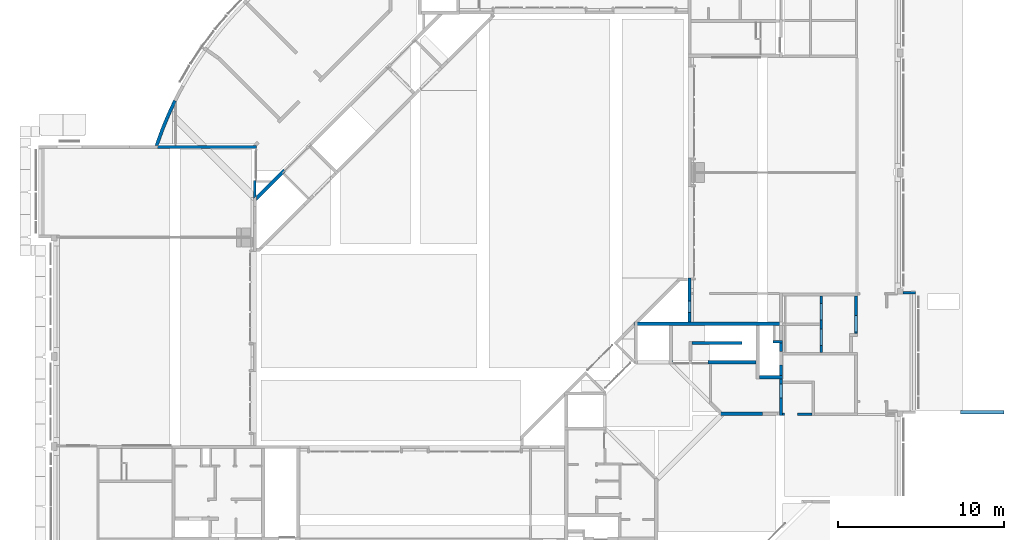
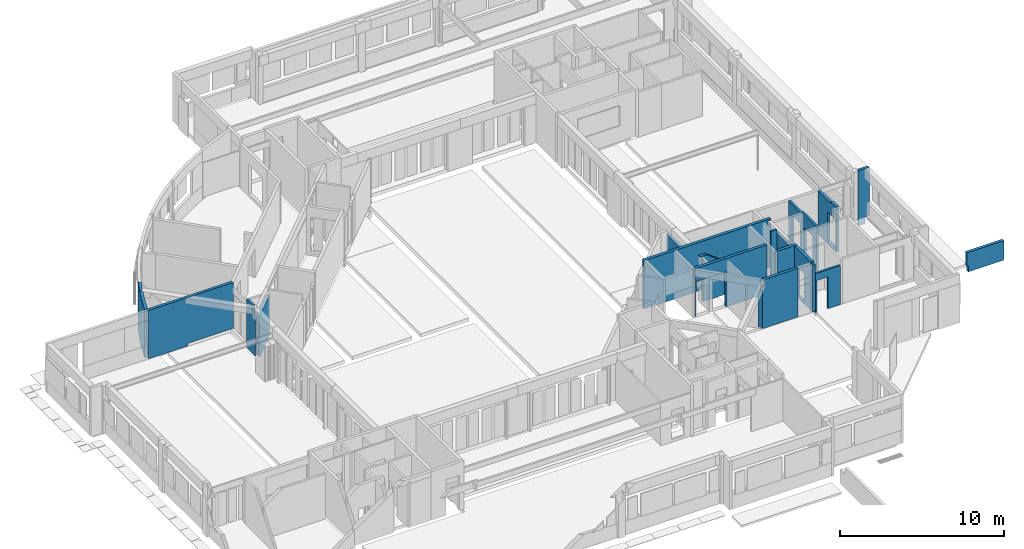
# One storey, part 28 of 30: 18 walls.
"""IFC4X3_ADD2 building model written with IfcOpenShell, lengths in millimetres."""

from ifc_helpers import new_model, si_unit, direction, origin_with_axes, place, context, subcontext, project, spatial, polygons, element, save


model = new_model("IFC4X3_ADD2")

# Units and contexts
model_context = context("Model", 3, precision=1e-05, world=origin_with_axes(), true_north=direction((0.0, 1.0)))
body_context = subcontext(model_context, "Body", "Model", "MODEL_VIEW")
ifc_project = project(units=[si_unit("LENGTHUNIT", "METRE", prefix="MILLI"), si_unit("AREAUNIT", "SQUARE_METRE"), si_unit("VOLUMEUNIT", "CUBIC_METRE"), si_unit("PLANEANGLEUNIT", "RADIAN"), si_unit("TIMEUNIT", "SECOND"), si_unit("MASSUNIT", "GRAM")], contexts=[model_context])

# Site, building, storey
site_placement = place(None, origin_with_axes())
site = spatial("IfcSite", under=ifc_project, at=site_placement, Name="Site", CompositionType="ELEMENT")
building_placement = place(site_placement, origin_with_axes())
building = spatial("IfcBuilding", under=site, at=building_placement, Name="IFC Building Story")
storey_placement = place(building_placement, origin_with_axes())
storey = spatial("IfcBuildingStorey", under=building, at=storey_placement, Name="000", Elevation=0.0)

# Walls
wall_1_placement = place(storey_placement, origin_with_axes())
element("IfcWall", 1, at=wall_1_placement, inside=storey, Name="Basic Wall:BB_XX_Wand uit beton, 200 mm", ObjectType="Basic Wall:BB_XX_Wand uit beton, 200 mm", PredefinedType="SOLIDWALL", context=body_context, shape_type="Tessellation", body=[
    polygons([(-43510.00357176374, 33170.56178589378, 3400.0), (-43474.76069443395, 33244.05478641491, 3400.0), (-43439.24583425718, 33317.41643732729, 3400.0), (-43428.9610024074, 33338.53290252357, 3400.0), (-43418.65398780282, 33359.63755455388, 3400.0), (-43588.63567018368, 33442.76500807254, 3400.0), (-43598.32030802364, 33447.50116123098, 3400.0), (-43803.89270545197, 33015.40151813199, 3400.0), (-44000.10417453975, 32578.97164239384, 3400.0), (-44186.8636073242, 32138.41419744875, 3400.0), (-44364.08422693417, 31693.93389387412, 3400.0), (-44531.68370293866, 31245.7372320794, 3400.0), (-44689.58049290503, 30794.04293435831, 3400.0), (-44701.19811620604, 30759.52906692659, 3400.0), (-44712.75769598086, 30725.00000000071, 3400.0), (-44501.79850273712, 30725.00000000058, 3400.0), (-44351.74753464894, 31155.16974461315, 3400.0), (-44192.82113554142, 31582.13974669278, 3400.0), (-44025.08737338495, 32005.72717265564, 3400.0), (-43848.61821322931, 32425.75030262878, 3400.0), (-43960.38058231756, 32537.51267171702, 3400.0), (-43677.53786984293, 32820.35538419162, 3400.0), (-43674.68451177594, 32817.50202612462, 3400.0), (-43593.12557878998, 32994.39643081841, 3400.0), (-43960.38058231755, 32537.51267171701, 3000.0), (-43848.61821322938, 32425.75030262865, 3000.0), (-43827.23361606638, 32475.04314188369, 3000.0), (-43805.72913969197, 32524.28258532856, 3000.0), (-43764.65288867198, 32617.43689461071, 3000.0), (-43723.1460246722, 32710.40004715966, 3000.0), (-43698.98704501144, 32763.98287520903, 3000.0), (-43674.6845117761, 32817.50202612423, 3000.0), (-43677.53786984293, 32820.35538419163, 3000.0), (-44501.79850273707, 30725.00000000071, -200.0), (-44712.75769598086, 30725.00000000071, -200.0), (-44552.24593249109, 31188.64553363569, -200.0), (-44381.52693567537, 31648.63056731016, -200.0), (-44200.68409444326, 32104.73041805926, -200.0), (-44009.80574276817, 32556.72230066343, -200.0), (-43808.98511654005, 33004.38543646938, -200.0), (-43598.32030802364, 33447.50116123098, -200.0), (-43418.65398780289, 33359.63755455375, -200.0), (-43573.54724347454, 33036.25565246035, -200.0), (-43723.14599375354, 32710.39984253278, -200.0), (-43764.65357484, 32617.43534819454, -200.0), (-43805.72988913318, 32524.2808598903, -200.0), (-43957.52882341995, 32169.42051387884, -200.0), (-44103.07863999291, 31811.95268133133, -200.0), (-44242.33477985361, 31451.98691925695, -200.0), (-44375.25436564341, 31089.63414236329, -200.0), (-44501.79850273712, 30725.00000000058, 840.0), (-43418.65398780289, 33359.63755455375, 880.0), (-43418.65398780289, 33359.63755455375, 0.0), (-43418.65398780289, 33359.63755455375, 840.0), (-43598.32030802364, 33447.50116123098, 2680.0), (-43598.32030802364, 33447.50116123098, 0.0), (-43598.32030802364, 33447.50116123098, 830.0), (-43598.32030802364, 33447.50116123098, 840.0)], [[[6, 7, 4]], [[4, 5, 6]], [[7, 3, 4]], [[7, 2, 3]], [[7, 1, 2]], [[14, 15, 16]], [[16, 13, 14]], [[16, 17, 12]], [[16, 12, 13]], [[17, 18, 11]], [[17, 11, 12]], [[18, 19, 10]], [[18, 10, 11]], [[21, 9, 10]], [[10, 19, 20]], [[10, 20, 21]], [[22, 23, 24]], [[24, 8, 9]], [[24, 9, 21]], [[24, 21, 22]], [[24, 1, 7]], [[24, 7, 8]], [[31, 32, 33]], [[33, 30, 31]], [[30, 33, 25]], [[25, 29, 30]], [[25, 28, 29]], [[25, 27, 28]], [[25, 26, 27]], [[40, 41, 42]], [[40, 42, 43]], [[45, 46, 39]], [[39, 40, 44]], [[39, 44, 45]], [[40, 43, 44]], [[46, 47, 38]], [[46, 38, 39]], [[48, 49, 37]], [[48, 37, 38]], [[38, 47, 48]], [[49, 50, 36]], [[49, 36, 37]], [[50, 34, 35]], [[50, 35, 36]], [[17, 16, 51]], [[19, 18, 48]], [[18, 17, 51]], [[19, 26, 20]], [[46, 28, 27]], [[46, 27, 26]], [[48, 26, 19]], [[50, 51, 34]], [[51, 50, 49]], [[51, 49, 18]], [[49, 48, 18]], [[48, 47, 26]], [[26, 47, 46]], [[46, 45, 28]], [[45, 29, 28]], [[24, 32, 1]], [[32, 24, 23]], [[2, 1, 52]], [[4, 3, 52]], [[3, 2, 52]], [[5, 4, 52]], [[44, 31, 30]], [[32, 31, 52]], [[44, 52, 31]], [[29, 44, 30]], [[54, 52, 43]], [[43, 53, 54]], [[43, 42, 53]], [[44, 43, 52]], [[52, 1, 32]], [[45, 44, 29]], [[6, 5, 55]], [[55, 7, 6]], [[53, 42, 41]], [[53, 41, 56]], [[57, 58, 54]], [[54, 53, 56]], [[54, 56, 57]], [[58, 52, 54]], [[58, 55, 5]], [[58, 5, 52]], [[56, 41, 40]], [[40, 57, 56]], [[40, 58, 57]], [[9, 40, 39]], [[7, 55, 58, 8]], [[58, 9, 8]], [[9, 58, 40]], [[39, 10, 9]], [[11, 38, 37]], [[13, 36, 35]], [[37, 36, 12]], [[35, 15, 14]], [[11, 10, 38]], [[13, 12, 36]], [[14, 13, 35]], [[11, 37, 12]], [[38, 10, 39]], [[51, 16, 15]], [[51, 15, 35]], [[35, 34, 51]], [[22, 21, 25, 33]], [[21, 20, 26, 25]], [[33, 32, 23, 22]]]),
])
wall_2_placement = place(storey_placement, origin_with_axes())
element("IfcWall", 2, at=wall_2_placement, inside=storey, Name="Basic Wall:BB_XX_Wand uit beton, 170 mm", ObjectType="Basic Wall:BB_XX_Wand uit beton, 170 mm", PredefinedType="SOLIDWALL", context=body_context, shape_type="Tessellation", body=[
    polygons([(995.000000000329, 21785.0, 3400.0), (245.0, 21785.0, 3400.0), (245.0, 21785.0, -700.0), (705.0000000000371, 21785.0, -700.0), (705.0000000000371, 21785.0, -199.999999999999), (805.00000000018, 21785.0, -199.999999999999), (995.000000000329, 21785.0, -199.999999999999), (995.000000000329, 21785.0, 840.0), (245.0, 21955.0, 3400.0), (995.000000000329, 21955.0, 3400.0), (995.000000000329, 21955.0, -199.999999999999), (705.0000000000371, 21955.0, -199.999999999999), (705.0000000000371, 21955.0, -700.0), (245.0, 21955.0, -700.0), (705.0000000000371, 21804.99999999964, -700.0)], [[[6, 7, 8]], [[8, 5, 6]], [[8, 1, 2]], [[8, 2, 3]], [[8, 3, 5]], [[3, 4, 5]], [[12, 13, 14]], [[12, 14, 9]], [[12, 9, 10]], [[10, 11, 12]], [[15, 4, 3]], [[3, 14, 13]], [[3, 13, 15]], [[8, 7, 11]], [[11, 10, 1]], [[11, 1, 8]], [[2, 1, 10, 9]], [[3, 2, 9, 14]], [[15, 13, 12]], [[15, 12, 5]], [[5, 4, 15]], [[6, 5, 12]], [[12, 11, 7]], [[12, 7, 6]]]),
])
wall_3_placement = place(storey_placement, origin_with_axes())
element("IfcWall", 3, at=wall_3_placement, inside=storey, Name="Basic Wall:BB_XX_Wand uit beton, 190 mm", ObjectType="Basic Wall:BB_XX_Wand uit beton, 190 mm", PredefinedType="SOLIDWALL", context=body_context, shape_type="Tessellation", body=[
    polygons([(-12695.0040658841, 22755.0, -200.0), (-12695.0040658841, 20099.99999999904, -200.0), (-12695.0040658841, 20099.99999999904, 2680.0), (-12695.0040658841, 22755.0, 2680.0), (-12695.0040658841, 21375.63375030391, 1700.0), (-12695.0040658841, 20675.6337503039, 1700.0), (-12695.0040658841, 20675.6337503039, 0.0), (-12695.0040658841, 21375.63375030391, 0.0), (-12505.0040658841, 22755.0, -200.0), (-12505.0040658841, 22755.0, 2680.0), (-12505.0040658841, 20099.99999999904, 2680.0), (-12505.0040658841, 20099.99999999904, -200.0), (-12505.0040658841, 21375.63375030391, 1700.0), (-12505.0040658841, 21375.63375030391, 0.0), (-12505.0040658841, 20675.6337503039, 0.0), (-12505.0040658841, 20675.6337503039, 1700.0)], [[[5, 3, 4]], [[4, 1, 8]], [[4, 8, 5]], [[1, 2, 8]], [[2, 7, 8]], [[2, 3, 6]], [[2, 6, 7]], [[3, 5, 6]], [[16, 13, 11]], [[11, 12, 15]], [[11, 15, 16]], [[12, 14, 15]], [[14, 12, 9]], [[9, 10, 13]], [[9, 13, 14]], [[10, 11, 13]], [[2, 1, 9, 12]], [[3, 2, 12, 11]], [[4, 3, 11, 10]], [[1, 4, 10, 9]], [[6, 5, 13, 16]], [[7, 6, 16, 15]], [[8, 7, 15, 14]], [[5, 8, 14, 13]]]),
])
wall_4_placement = place(storey_placement, origin_with_axes())
element("IfcWall", 4, at=wall_4_placement, inside=storey, Name="Basic Wall:BB_XX_Wand uit beton, 200 mm", ObjectType="Basic Wall:BB_XX_Wand uit beton, 200 mm", PredefinedType="SOLIDWALL", context=body_context, shape_type="Tessellation", body=[
    polygons([(-15915.2549392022, 19900.0, -79.99999999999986), (-15914.9999999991, 19900.0, -79.99999999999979), (-15904.6483374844, 19900.0, -79.99999999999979), (-15714.9999999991, 19900.0, -79.99999999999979), (-13814.9999999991, 19900.0, -79.99999999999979), (-13614.9999999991, 19900.0, -79.99999999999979), (-8599.9999999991, 19900.0, -79.99999999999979), (-8399.9999999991, 19900.0, -79.99999999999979), (-6999.999999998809, 19900.0, -79.99999999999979), (-6999.999999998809, 19900.0, 3140.0), (-7189.999999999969, 19900.0, 3140.0), (-7189.999999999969, 19900.0, 3400.0), (-6999.999999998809, 19900.0, 3400.0), (-6999.999999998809, 19900.0, 3520.0), (-8399.9999999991, 19900.0, 3520.0), (-8599.9999999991, 19900.0, 3520.0), (-13614.9999999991, 19900.0, 3520.0), (-13814.9999999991, 19900.0, 3520.0), (-15714.9999999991, 19900.0, 3520.0), (-15914.9999999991, 19900.0, 3520.0), (-15915.2549392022, 19900.0, 3520.0), (-6999.999999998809, 20100.0, -79.99999999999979), (-15714.9999999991, 20100.0, -79.99999999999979), (-15904.6483374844, 20100.0, -79.99999999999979), (-15914.9999999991, 20100.0, -79.99999999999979), (-15915.2549392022, 20100.0, -79.99999999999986), (-15915.2549392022, 20100.0, 3520.0), (-15914.9999999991, 20100.0, 3520.0), (-15714.9999999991, 20100.0, 3520.0), (-6999.999999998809, 20100.0, 3520.0), (-6999.999999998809, 20100.0, 3400.0), (-7189.999999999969, 20100.0, 3400.0), (-7189.999999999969, 20100.0, 3140.0), (-6999.999999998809, 20100.0, 3140.0)], [[[12, 13, 14]], [[12, 14, 15]], [[15, 11, 12]], [[11, 15, 8]], [[11, 8, 9]], [[9, 10, 11]], [[15, 16, 7]], [[15, 7, 8]], [[16, 17, 6]], [[16, 6, 7]], [[17, 18, 5]], [[17, 5, 6]], [[18, 19, 4]], [[18, 4, 5]], [[19, 20, 3]], [[19, 3, 4]], [[20, 2, 3]], [[20, 21, 1]], [[20, 1, 2]], [[25, 26, 27]], [[25, 27, 28]], [[28, 24, 25]], [[28, 29, 23]], [[28, 23, 24]], [[33, 34, 22]], [[33, 22, 23]], [[33, 23, 29]], [[29, 32, 33]], [[29, 30, 32]], [[30, 31, 32]], [[2, 1, 26]], [[2, 26, 25]], [[25, 24, 3]], [[25, 3, 2]], [[24, 23, 4]], [[24, 4, 3]], [[23, 5, 4]], [[23, 6, 5]], [[6, 23, 22]], [[22, 7, 6]], [[22, 8, 7]], [[22, 9, 8]], [[9, 22, 34, 10]], [[15, 14, 30]], [[30, 16, 15]], [[30, 17, 16]], [[30, 29, 17]], [[29, 18, 17]], [[29, 19, 18]], [[29, 28, 20]], [[29, 20, 19]], [[28, 27, 21]], [[28, 21, 20]], [[1, 21, 27, 26]], [[33, 11, 10, 34]], [[11, 33, 32, 12]], [[12, 32, 31, 13]], [[30, 14, 13, 31]]]),
])
wall_5_placement = place(storey_placement, origin_with_axes())
element("IfcWall", 5, at=wall_5_placement, inside=storey, Name="Basic Wall:BB_XX_Wand uit beton, 200 mm", ObjectType="Basic Wall:BB_XX_Wand uit beton, 200 mm", PredefinedType="SOLIDWALL", context=body_context, shape_type="Tessellation", body=[
    polygons([(-8400.0, 16700.0, -79.99999999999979), (-7000.000000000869, 16700.0, -79.99999999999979), (-7000.000000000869, 16700.0, 3140.0), (-7190.000000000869, 16700.0, 3140.0), (-7190.000000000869, 16700.0, 3400.0), (-7000.000000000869, 16700.0, 3400.0), (-7000.000000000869, 16700.0, 3520.0), (-8400.0, 16700.0, 3520.0), (-7000.000000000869, 16900.0, -79.99999999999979), (-8400.0, 16900.0, -79.99999999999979), (-8400.0, 16900.0, 3520.0), (-7000.000000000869, 16900.0, 3520.0), (-7000.000000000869, 16900.0, 3400.0), (-7190.000000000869, 16900.0, 3400.0), (-7190.000000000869, 16900.0, 3140.0), (-7000.000000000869, 16900.0, 3140.0)], [[[5, 6, 7]], [[5, 7, 8]], [[8, 4, 5]], [[4, 8, 1]], [[4, 1, 2]], [[2, 3, 4]], [[15, 16, 9]], [[9, 10, 11]], [[9, 11, 15]], [[11, 14, 15]], [[11, 12, 14]], [[12, 13, 14]], [[2, 1, 10, 9]], [[2, 9, 16, 3]], [[8, 7, 12, 11]], [[1, 8, 11, 10]], [[15, 4, 3, 16]], [[4, 15, 14, 5]], [[5, 14, 13, 6]], [[12, 7, 6, 13]]]),
])
wall_6_placement = place(storey_placement, origin_with_axes())
element("IfcWall", 6, at=wall_6_placement, inside=storey, Name="Basic Wall:BB_XX_Wand uit beton, 200 mm", ObjectType="Basic Wall:BB_XX_Wand uit beton, 200 mm", PredefinedType="SOLIDWALL", context=body_context, shape_type="Tessellation", body=[
    polygons([(-7200.03046328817, 16700.0, -80.0), (-7200.03046328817, 14700.00000000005, -79.99999999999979), (-7200.030463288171, 14500.00000000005, -79.99999999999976), (-7200.030463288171, 14500.00000000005, 3400.0), (-7200.030463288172, 14700.00000000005, 3400.0), (-7200.030463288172, 14700.00000000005, 3520.0), (-7200.03046328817, 16700.0, 3520.0), (-7200.030463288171, 16390.00000000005, 2160.0), (-7200.03046328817, 15560.00000000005, 2160.0), (-7200.03046328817, 15560.00000000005, 0.0), (-7200.030463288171, 16390.00000000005, -1.70530256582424e-12), (-7000.030463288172, 16700.0, -80.0), (-7000.030463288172, 16700.0, 3520.0), (-7000.03046328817, 14700.00000000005, 3520.0), (-7000.03046328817, 14700.00000000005, 3400.0), (-7000.03046328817, 14500.00000000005, 3400.0), (-7000.03046328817, 14500.00000000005, -79.99999999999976), (-7000.030463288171, 16390.00000000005, 2160.0), (-7000.030463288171, 16390.00000000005, -1.70530256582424e-12), (-7000.030463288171, 15560.00000000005, 0.0), (-7000.030463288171, 15560.00000000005, 2160.0)], [[[2, 3, 4]], [[2, 4, 5]], [[5, 6, 7]], [[11, 8, 7]], [[11, 7, 1]], [[1, 10, 11]], [[1, 2, 10]], [[2, 5, 9]], [[2, 9, 10]], [[5, 7, 8]], [[5, 8, 9]], [[15, 16, 17]], [[21, 18, 13]], [[21, 13, 15]], [[15, 17, 20]], [[15, 20, 21]], [[20, 17, 12]], [[12, 19, 20]], [[12, 13, 18]], [[12, 18, 19]], [[13, 14, 15]], [[4, 3, 17, 16]], [[6, 5, 15, 14]], [[2, 1, 12]], [[2, 12, 17]], [[17, 3, 2]], [[7, 6, 14, 13]], [[1, 7, 13, 12]], [[15, 5, 4, 16]], [[9, 8, 18, 21]], [[10, 9, 21, 20]], [[11, 10, 20, 19]], [[8, 11, 19, 18]]]),
])
wall_7_placement = place(storey_placement, origin_with_axes())
element("IfcWall", 7, at=wall_7_placement, inside=storey, Name="Basic Wall:BB_XX_Wand uit beton, 200 mm", ObjectType="Basic Wall:BB_XX_Wand uit beton, 200 mm", PredefinedType="SOLIDWALL", context=body_context, shape_type="Tessellation", body=[
    polygons([(-8600.000000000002, 17800.0, -80.0), (-11477.49999999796, 17800.0, -79.99999999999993), (-11477.49999999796, 17800.0, 2550.0), (-12437.49999999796, 17800.0, 2550.0), (-12627.49999999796, 17800.0, 2550.0), (-13587.49999999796, 17800.0, 2550.0), (-13587.49999999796, 17800.0, -80.0), (-13614.99999999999, 17800.0, -79.99999999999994), (-13614.99999999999, 17800.0, 3520.0), (-8600.000000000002, 17800.0, 3520.0), (-11477.49999999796, 17600.0, -79.99999999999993), (-8600.000000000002, 17600.0, -80.0), (-8600.000000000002, 17600.0, 3520.0), (-13614.99999999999, 17600.0, 3520.0), (-13614.99999999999, 17600.0, -79.99999999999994), (-13587.49999999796, 17600.0, -80.0), (-13587.49999999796, 17600.0, 2550.0), (-12627.49999999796, 17600.0, 2550.0), (-12437.49999999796, 17600.0, 2550.0), (-11477.49999999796, 17600.0, 2550.0)], [[[6, 7, 8]], [[8, 9, 6]], [[9, 5, 6]], [[9, 4, 5]], [[9, 3, 4]], [[3, 9, 10]], [[10, 1, 2]], [[10, 2, 3]], [[20, 11, 12]], [[20, 12, 13]], [[13, 14, 20]], [[14, 19, 20]], [[14, 18, 19]], [[14, 17, 18]], [[17, 14, 15]], [[15, 16, 17]], [[1, 10, 13, 12]], [[9, 8, 15, 14]], [[2, 1, 12, 11]], [[10, 9, 14, 13]], [[3, 2, 11, 20]], [[18, 17, 6]], [[18, 6, 5]], [[5, 4, 19]], [[5, 19, 18]], [[4, 3, 20]], [[4, 20, 19]], [[7, 6, 17, 16]], [[8, 7, 16, 15]]]),
])
wall_8_placement = place(storey_placement, origin_with_axes())
element("IfcWall", 8, at=wall_8_placement, inside=storey, Name="Basic Wall:BB_XX_Wand uit beton, 200 mm", ObjectType="Basic Wall:BB_XX_Wand uit beton, 200 mm", PredefinedType="SOLIDWALL", context=body_context, shape_type="Tessellation", body=[
    polygons([(-8210.0, 14700.0, -79.99999999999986), (-10718.01515190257, 14700.0, -79.99999999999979), (-10718.01515190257, 14700.0, 0.0), (-10916.00505063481, 14700.0, 0.0), (-10916.00505063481, 14700.0, 2680.0), (-10718.01515190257, 14700.0, 2680.0), (-10718.01515190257, 14700.0, 3520.0), (-8210.0, 14700.0, 3520.0), (-10716.00505063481, 14500.0, -79.99999999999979), (-8210.000000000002, 14500.0, -79.99999999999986), (-8210.000000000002, 14500.0, 3520.0), (-10518.01515190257, 14500.0, 3520.0), (-10518.01515190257, 14500.0, 3020.0), (-10716.00505063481, 14500.0, 3020.0), (-10716.00505063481, 14500.0, 2680.0), (-10716.00505063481, 14500.0, 0.0), (-10717.96137222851, 14694.64905824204, 3520.0), (-10715.31279118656, 14697.297639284, 3520.0), (-10715.31279118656, 14697.29763928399, 3020.0), (-10717.96137222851, 14694.64905824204, 3020.0)], [[[6, 7, 8]], [[6, 8, 3]], [[6, 3, 4]], [[4, 5, 6]], [[8, 1, 3]], [[1, 2, 3]], [[16, 9, 13]], [[13, 15, 16]], [[13, 14, 15]], [[13, 9, 10]], [[13, 10, 11]], [[11, 12, 13]], [[2, 1, 10, 9]], [[18, 12, 11]], [[18, 11, 8]], [[8, 7, 18]], [[7, 17, 18]], [[1, 8, 11, 10]], [[18, 19, 13, 12]], [[13, 19, 20, 14]], [[4, 3, 16]], [[6, 5, 15]], [[2, 9, 16, 3]], [[5, 4, 16, 15]], [[20, 17, 7]], [[7, 6, 20]], [[6, 15, 14]], [[6, 14, 20]], [[19, 18, 17, 20]]]),
])
wall_9_placement = place(storey_placement, origin_with_axes())
element("IfcWall", 9, at=wall_9_placement, inside=storey, Name="Basic Wall:BB_XX_Wand uit metselwerk, 140 mm", ObjectType="Basic Wall:BB_XX_Wand uit metselwerk, 140 mm", PredefinedType="SOLIDWALL", context=body_context, shape_type="Tessellation", body=[
    polygons([(-38655.0, 28624.00000000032, -200.0), (-38655.0, 28624.00000000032, 3400.0), (-38655.0, 28484.00000000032, 3400.0), (-38655.0, 27797.81751435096, 3400.0), (-38655.0, 27797.81751435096, 3000.0), (-38655.0, 27605.00000000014, 3000.0), (-38655.0, 27605.00000000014, 2680.0), (-38655.0, 27640.83694395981, 2680.0), (-38655.0, 27640.8369439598, -200.0), (-38655.0, 28484.00000000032, -200.0), (-38795.0, 28624.00000000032, 3400.0), (-38795.0, 28624.00000000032, -200.0), (-38795.0, 27500.8369439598, -200.0), (-38795.0, 27500.8369439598, 2680.0), (-38795.0, 27605.00000000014, 2680.0), (-38795.0, 27605.00000000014, 3000.0), (-38795.0, 27937.81751435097, 3000.0), (-38795.0, 27937.81751435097, 3400.0), (-38690.83694395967, 27605.00000000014, 2680.0)], [[[5, 6, 7]], [[8, 9, 10]], [[8, 10, 3]], [[8, 3, 5]], [[5, 7, 8]], [[3, 4, 5]], [[10, 1, 2]], [[10, 2, 3]], [[17, 18, 11]], [[11, 15, 17]], [[15, 16, 17]], [[11, 12, 13]], [[11, 13, 15]], [[13, 14, 15]], [[10, 9, 13]], [[10, 13, 12]], [[12, 1, 10]], [[3, 2, 11]], [[11, 18, 4]], [[11, 4, 3]], [[2, 1, 12, 11]], [[19, 7, 6]], [[6, 16, 15]], [[6, 15, 19]], [[15, 14, 19]], [[5, 17, 16, 6]], [[17, 5, 4, 18]], [[19, 8, 7]], [[19, 14, 13]], [[19, 13, 9]], [[9, 8, 19]]]),
])
wall_10_placement = place(storey_placement, origin_with_axes())
element("IfcWall", 10, at=wall_10_placement, inside=storey, Name="Basic Wall:BB_XX_Wand uit metselwerk, 190 mm", ObjectType="Basic Wall:BB_XX_Wand uit metselwerk, 190 mm", PredefinedType="SOLIDWALL", context=body_context, shape_type="Tessellation", body=[
    polygons([(-7000.03046328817, 16900.0, -200.0), (-7000.030463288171, 17519.72080496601, -200.0), (-7000.030463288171, 17519.72080496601, 1560.0), (-7000.03046328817, 18339.72080496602, 1560.0), (-7000.03046328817, 18339.72080496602, -200.0), (-7000.03046328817, 18859.99999999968, -200.0), (-7000.03046328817, 18859.99999999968, 3140.0), (-7000.03046328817, 16900.0, 3140.0), (-7190.03046328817, 16900.0, -200.0), (-7190.03046328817, 16900.0, 3140.0), (-7190.03046328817, 18859.99999999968, 3140.0), (-7190.03046328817, 18859.99999999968, -200.0), (-7190.03046328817, 18339.72080496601, -200.0), (-7190.03046328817, 18339.72080496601, 1560.0), (-7190.030463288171, 17519.72080496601, 1560.0), (-7190.030463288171, 17519.72080496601, -200.0)], [[[4, 5, 6]], [[4, 6, 7]], [[7, 8, 3]], [[7, 3, 4]], [[8, 1, 2]], [[8, 2, 3]], [[15, 16, 9]], [[15, 9, 10]], [[10, 11, 14]], [[10, 14, 15]], [[11, 12, 13]], [[11, 13, 14]], [[7, 6, 12, 11]], [[2, 1, 9, 16]], [[8, 7, 11, 10]], [[1, 8, 10, 9]], [[3, 2, 16, 15]], [[4, 3, 15, 14]], [[5, 4, 14, 13]], [[6, 5, 13, 12]]]),
])
wall_11_placement = place(storey_placement, origin_with_axes())
element("IfcWall", 11, at=wall_11_placement, inside=storey, Name="Basic Wall:BB_XX_Wand uit metselwerk, 140 mm", ObjectType="Basic Wall:BB_XX_Wand uit metselwerk, 140 mm", PredefinedType="SOLIDWALL", context=body_context, shape_type="Tessellation", body=[
    polygons([(-7000.03046328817, 19000.0, -200.0), (-7449.99999999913, 19000.0, -200.0), (-7589.99999999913, 19000.0, -200.0), (-7589.99999999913, 19000.0, 3400.0), (-7449.99999999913, 19000.0, 3400.0), (-7189.999999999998, 19000.0, 3400.0), (-7189.999999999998, 19000.0, 3140.0), (-7000.03046328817, 19000.0, 3140.0), (-7589.999999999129, 18860.0, -200.0), (-7190.03046328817, 18860.0, -200.0), (-7000.03046328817, 18860.0, -200.0), (-7000.03046328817, 18860.0, 3140.0), (-7189.999999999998, 18860.0, 3140.0), (-7189.999999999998, 18860.0, 3400.0), (-7589.999999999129, 18860.0, 3400.0)], [[[2, 3, 4]], [[2, 4, 5]], [[7, 8, 1]], [[1, 2, 5]], [[1, 5, 7]], [[5, 6, 7]], [[13, 14, 10]], [[10, 11, 12]], [[10, 12, 13]], [[14, 15, 9]], [[14, 9, 10]], [[10, 9, 2]], [[10, 2, 1]], [[1, 11, 10]], [[9, 3, 2]], [[5, 4, 15]], [[15, 14, 6]], [[15, 6, 5]], [[4, 3, 9, 15]], [[7, 13, 12, 8]], [[13, 7, 6, 14]], [[11, 1, 8, 12]]]),
])
wall_12_placement = place(storey_placement, origin_with_axes())
element("IfcWall", 12, at=wall_12_placement, inside=storey, Name="Basic Wall:BB_XX_Wand uit beton, 200 mm", ObjectType="Basic Wall:BB_XX_Wand uit beton, 200 mm", PredefinedType="SOLIDWALL", context=body_context, shape_type="Tessellation", body=[
    polygons([(-38605.00000000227, 27690.83694395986, 2680.0), (-36998.11489554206, 29297.72204842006, 2680.0), (-36998.11489554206, 29297.72204842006, -200.0), (-37170.39997949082, 29125.4369644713, -200.0), (-37170.39997949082, 29125.4369644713, -400.0), (-38330.00000000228, 27965.83694395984, -400.0), (-38430.00000000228, 27865.83694395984, -400.0), (-38430.00000000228, 27865.83694395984, -199.999999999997), (-38605.00000000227, 27690.83694395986, -199.999999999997), (-36856.69353930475, 29156.30069218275, 2680.0), (-38605.00000000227, 27407.99423148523, 2680.0), (-38605.00000000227, 27407.99423148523, -199.999999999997), (-38430.00000000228, 27582.99423148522, -199.999999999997), (-38430.00000000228, 27582.99423148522, -400.0), (-38330.00000000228, 27682.99423148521, -400.0), (-37028.9786232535, 28984.015608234, -400.0), (-37028.97862325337, 28984.01560823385, -200.0), (-36856.69353930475, 29156.30069218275, -200.0)], [[[8, 9, 1]], [[1, 4, 8]], [[4, 6, 7]], [[4, 7, 8]], [[4, 5, 6]], [[1, 2, 3]], [[1, 3, 4]], [[17, 18, 13]], [[13, 15, 16]], [[13, 16, 17]], [[13, 14, 15]], [[13, 18, 10]], [[13, 10, 11]], [[11, 12, 13]], [[6, 5, 16]], [[6, 16, 15]], [[15, 14, 7]], [[15, 7, 6]], [[2, 1, 11, 10]], [[2, 10, 18, 3]], [[11, 1, 9, 12]], [[4, 17, 16, 5]], [[17, 4, 3, 18]], [[8, 13, 12, 9]], [[13, 8, 7, 14]]]),
])
wall_13_placement = place(storey_placement, origin_with_axes())
element("IfcWall", 13, at=wall_13_placement, inside=storey, Name="Basic Wall:BB_XX_Wand uit metselwerk, 190 mm", ObjectType="Basic Wall:BB_XX_Wand uit metselwerk, 190 mm", PredefinedType="SOLIDWALL", context=body_context, shape_type="Tessellation", body=[
    polygons([(-9449.999999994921, 18755.0, -50.0), (-9449.999999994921, 18755.0, 1302.49999999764), (-12179.99999999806, 18755.0, 3350.0), (-12627.4999999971, 18755.0, 3350.0), (-12627.4999999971, 18755.0, 3320.0), (-12437.4999999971, 18755.0, 3320.0), (-12437.4999999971, 18755.0, -50.0), (-9449.999999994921, 18945.0, 1302.49999999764), (-9449.999999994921, 18945.0, -50.0), (-12437.4999999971, 18945.0, -50.0), (-12437.4999999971, 18945.0, 3320.0), (-12627.4999999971, 18945.0, 3320.0), (-12627.4999999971, 18945.0, 3350.0), (-12179.99999999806, 18945.0, 3350.0)], [[[6, 7, 1]], [[6, 1, 2]], [[6, 2, 3]], [[3, 4, 6]], [[4, 5, 6]], [[11, 12, 13]], [[11, 13, 14]], [[14, 8, 9]], [[14, 9, 10]], [[14, 10, 11]], [[6, 11, 10, 7]], [[11, 6, 5, 12]], [[9, 1, 7, 10]], [[2, 1, 9, 8]], [[4, 3, 14, 13]], [[4, 13, 12, 5]], [[3, 2, 8, 14]]]),
])
wall_14_placement = place(storey_placement, origin_with_axes())
element("IfcWall", 14, at=wall_14_placement, inside=storey, Name="Basic Wall:BB_XX_Wand uit beton, 200 mm", ObjectType="Basic Wall:BB_XX_Wand uit beton, 200 mm", PredefinedType="SOLIDWALL", context=body_context, shape_type="Tessellation", body=[
    polygons([(3800.04020634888, 14595.0, -1000.0), (6300.04020634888, 14595.0, -1000.0), (6300.04020634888, 14595.0, 450.0), (3700.04020634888, 14595.0, 450.0), (3700.04020634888, 14595.0, -550.0), (3800.04020634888, 14595.0, -550.0), (3800.04020634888, 14795.0, -1000.0), (3800.04020634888, 14795.0, -550.0), (3700.040206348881, 14795.0, -550.0), (3700.040206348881, 14795.0, 450.0), (6300.04020634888, 14795.0, 450.0), (6300.04020634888, 14795.0, -1000.0)], [[[6, 1, 2]], [[2, 3, 4]], [[2, 4, 6]], [[4, 5, 6]], [[8, 9, 10]], [[8, 10, 11]], [[8, 11, 12]], [[12, 7, 8]], [[2, 1, 7, 12]], [[3, 2, 12, 11]], [[4, 3, 11, 10]], [[5, 4, 10, 9]], [[5, 9, 8, 6]], [[1, 6, 8, 7]]]),
])
wall_15_placement = place(storey_placement, origin_with_axes())
element("IfcWall", 15, at=wall_15_placement, inside=storey, Name="Basic Wall:BB_03.09.24#06_Wand uit metselwerk_EI60_43dB, 190 mm", ObjectType="Basic Wall:BB_03.09.24#06_Wand uit metselwerk_EI60_43dB, 190 mm", PredefinedType="SOLIDWALL", context=body_context, shape_type="Tessellation", body=[
    polygons([(-38600.0, 30724.6489405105, -10.0), (-38838.02133253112, 30724.6489405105, -10.0), (-41786.44655436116, 30724.6489405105, -10.0), (-41786.44655436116, 30724.6489405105, -200.0), (-44501.91689252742, 30724.6489405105, -200.0), (-44501.91689252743, 30724.6489405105, 840.0), (-44573.63043618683, 30724.6489405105, 840.0), (-44573.63043618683, 30724.6489405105, 3400.0), (-38600.0, 30724.6489405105, 3400.0), (-38600.0, 30724.6489405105, 3070.0), (-38600.0, 30724.6489405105, 0.0), (-44564.91366765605, 30535.00000000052, -200.0), (-44573.63043618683, 30535.00000000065, -200.0), (-44573.63043618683, 30535.00000000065, 840.0), (-44564.913667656, 30535.00000000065, 840.0), (-41786.44655436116, 30534.6489405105, -10.0), (-38600.0, 30534.6489405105, -10.0), (-38600.0, 30534.6489405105, 3400.0), (-44573.63043618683, 30534.6489405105, 3400.0), (-44573.63043618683, 30534.6489405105, -200.0), (-41786.44655436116, 30534.6489405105, -200.0), (-44533.6306170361, 30629.89599996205, -200.0), (-38600.0, 30693.96969619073, -10.0), (-44533.63061673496, 30629.89600086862, 840.0)], [[[3, 4, 5]], [[6, 7, 8]], [[6, 8, 3]], [[3, 5, 6]], [[8, 9, 2]], [[8, 2, 3]], [[11, 1, 2]], [[2, 10, 11]], [[2, 9, 10]], [[12, 13, 14, 15]], [[16, 17, 18]], [[16, 18, 19]], [[19, 20, 16]], [[20, 21, 16]], [[22, 5, 4]], [[22, 4, 21]], [[21, 12, 22]], [[21, 20, 12]], [[20, 13, 12]], [[23, 17, 2]], [[2, 1, 23]], [[17, 16, 3]], [[17, 3, 2]], [[24, 15, 14]], [[24, 14, 7]], [[7, 6, 24]], [[14, 13, 20]], [[14, 20, 19]], [[19, 8, 7]], [[19, 7, 14]], [[9, 8, 19, 18]], [[10, 9, 18]], [[18, 17, 11]], [[18, 11, 10]], [[23, 1, 11]], [[11, 17, 23]], [[16, 21, 4, 3]], [[15, 24, 22, 12]], [[24, 6, 5, 22]]]),
])
wall_16_placement = place(storey_placement, origin_with_axes())
element("IfcWall", 16, at=wall_16_placement, inside=storey, Name="Basic Wall:BB_03.09.24#05_Wand uit metselwerk_EI60, 190 mm", ObjectType="Basic Wall:BB_03.09.24#05_Wand uit metselwerk_EI60, 190 mm", PredefinedType="SOLIDWALL", context=body_context, shape_type="Tessellation", body=[
    polygons([(-2685.0, 21665.0, -200.0), (-2685.0, 19424.9999999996, -200.0), (-2685.0, 19424.9999999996, 3140.0), (-2685.0, 20099.99999999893, 3140.0), (-2685.0, 20099.99999999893, 3000.0), (-2685.0, 21665.0, 3000.0), (-2685.0, 20514.9999999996, 2160.0), (-2685.0, 19524.9999999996, 2160.0), (-2685.0, 19524.9999999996, -9.999999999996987), (-2685.0, 20514.9999999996, -9.999999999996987), (-2495.0, 19424.9999999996, -200.0), (-2495.0, 21665.0, -200.0), (-2495.0, 21665.0, 3000.0), (-2495.0, 20099.99999999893, 3000.0), (-2495.0, 20099.99999999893, 3140.0), (-2495.0, 19424.9999999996, 3140.0), (-2495.0, 19524.9999999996, 2160.0), (-2495.0, 20514.9999999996, 2160.0), (-2495.0, 20514.9999999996, -9.999999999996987), (-2495.0, 19524.9999999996, -9.999999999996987)], [[[7, 5, 6]], [[6, 1, 10]], [[6, 10, 7]], [[1, 2, 10]], [[2, 9, 10]], [[2, 3, 8]], [[2, 8, 9]], [[3, 5, 7]], [[3, 7, 8]], [[3, 4, 5]], [[14, 15, 16]], [[20, 17, 16]], [[20, 16, 11]], [[11, 19, 20]], [[19, 11, 12]], [[12, 13, 18]], [[12, 18, 19]], [[13, 14, 18]], [[14, 16, 17]], [[14, 17, 18]], [[17, 8, 7, 18]], [[18, 7, 10, 19]], [[19, 10, 9, 20]], [[8, 17, 20, 9]], [[3, 2, 11, 16]], [[2, 1, 12, 11]], [[4, 3, 16, 15]], [[1, 6, 13, 12]], [[5, 4, 15, 14]], [[6, 5, 14, 13]]]),
])
wall_17_placement = place(storey_placement, origin_with_axes())
element("IfcWall", 17, at=wall_17_placement, inside=storey, Name="Basic Wall:BB_03.09.24#01_Wand uit metselwerk, 140 mm", ObjectType="Basic Wall:BB_03.09.24#01_Wand uit metselwerk, 140 mm", PredefinedType="SOLIDWALL", context=body_context, shape_type="Tessellation", body=[
    polygons([(-4610.0, 18285.0, -200.0), (-4610.0, 21664.99999999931, -200.0), (-4610.0, 21664.99999999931, 3000.0), (-4610.0, 20099.99999999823, 3000.0), (-4610.0, 20099.99999999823, 3140.0), (-4610.0, 18285.0, 3140.0), (-4609.999999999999, 20244.99999999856, 2160.0), (-4610.0, 21234.99999999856, 2160.0), (-4610.0, 21234.99999999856, -9.999999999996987), (-4609.999999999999, 20244.99999999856, -9.999999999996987), (-4610.0, 18714.99999999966, 2160.0), (-4610.0, 19704.99999999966, 2160.0), (-4610.0, 19704.99999999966, -9.999999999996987), (-4610.0, 18714.99999999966, -9.999999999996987), (-4750.0, 21664.99999999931, -200.0), (-4750.0, 18285.0, -200.0), (-4750.0, 18285.0, 3140.0), (-4750.0, 20099.99999999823, 3140.0), (-4750.0, 20099.99999999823, 3000.0), (-4750.0, 21664.99999999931, 3000.0), (-4749.999999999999, 21234.99999999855, 2160.0), (-4750.0, 20244.99999999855, 2160.0), (-4750.0, 20244.99999999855, -9.999999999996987), (-4749.999999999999, 21234.99999999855, -9.999999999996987), (-4750.0, 19704.99999999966, 2160.0), (-4749.999999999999, 18714.99999999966, 2160.0), (-4749.999999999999, 18714.99999999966, -9.999999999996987), (-4750.0, 19704.99999999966, -9.999999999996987)], [[[4, 5, 6]], [[6, 7, 4]], [[14, 11, 6]], [[14, 6, 1]], [[1, 13, 14]], [[1, 10, 13]], [[10, 7, 12]], [[10, 12, 13]], [[12, 7, 6]], [[6, 11, 12]], [[1, 2, 10]], [[2, 9, 10]], [[2, 3, 8]], [[2, 8, 9]], [[3, 4, 7]], [[3, 7, 8]], [[24, 21, 20]], [[24, 20, 15]], [[15, 23, 24]], [[23, 15, 28]], [[28, 25, 22]], [[28, 22, 23]], [[15, 16, 28]], [[16, 27, 28]], [[16, 17, 26]], [[16, 26, 27]], [[17, 18, 19]], [[17, 19, 25]], [[17, 25, 26]], [[22, 25, 19]], [[19, 20, 21]], [[19, 21, 22]], [[7, 22, 21, 8]], [[8, 21, 24, 9]], [[9, 24, 23, 10]], [[22, 7, 10, 23]], [[25, 12, 11, 26]], [[26, 11, 14, 27]], [[27, 14, 13, 28]], [[12, 25, 28, 13]], [[2, 1, 16, 15]], [[3, 2, 15, 20]], [[6, 5, 18, 17]], [[1, 6, 17, 16]], [[4, 3, 20, 19]], [[5, 4, 19, 18]]]),
])
wall_18_placement = place(storey_placement, origin_with_axes())
element("IfcWall", 18, at=wall_18_placement, inside=storey, Name="Basic Wall:BB_03.09.24#02_Wand uit metselwerk_EI60_43dB, 140 mm", ObjectType="Basic Wall:BB_03.09.24#02_Wand uit metselwerk_EI60_43dB, 140 mm", PredefinedType="SOLIDWALL", context=body_context, shape_type="Tessellation", body=[
    polygons([(-7000.03046328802, 14640.0, -200.0), (-7000.03046328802, 14640.0, 2700.0), (-5240.0, 14640.0, 2700.0), (-5240.0, 14640.0, -200.0), (-6110.030463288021, 14640.0, -200.0), (-6110.030463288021, 14640.0, 2160.0), (-6900.03046328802, 14640.0, 2160.0), (-6900.03046328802, 14640.0, -200.0), (-7000.03046328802, 14500.0, 2700.0), (-7000.03046328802, 14500.0, -200.0), (-6900.03046328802, 14500.0, -200.0), (-6900.03046328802, 14500.0, 2160.0), (-6110.03046328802, 14500.0, 2160.0), (-6110.03046328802, 14500.0, -200.0), (-5239.999999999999, 14500.0, -200.0), (-5239.999999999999, 14500.0, 2700.0)], [[[7, 8, 1]], [[7, 1, 2]], [[2, 3, 6]], [[2, 6, 7]], [[3, 4, 5]], [[3, 5, 6]], [[13, 14, 15]], [[13, 15, 16]], [[16, 9, 12]], [[16, 12, 13]], [[9, 10, 11]], [[9, 11, 12]], [[4, 15, 14, 5]], [[2, 1, 10, 9]], [[3, 2, 9, 16]], [[4, 3, 16, 15]], [[6, 13, 12, 7]], [[7, 12, 11, 8]], [[13, 6, 5, 14]], [[10, 1, 8, 11]]]),
])

save(model, "model.ifc")
